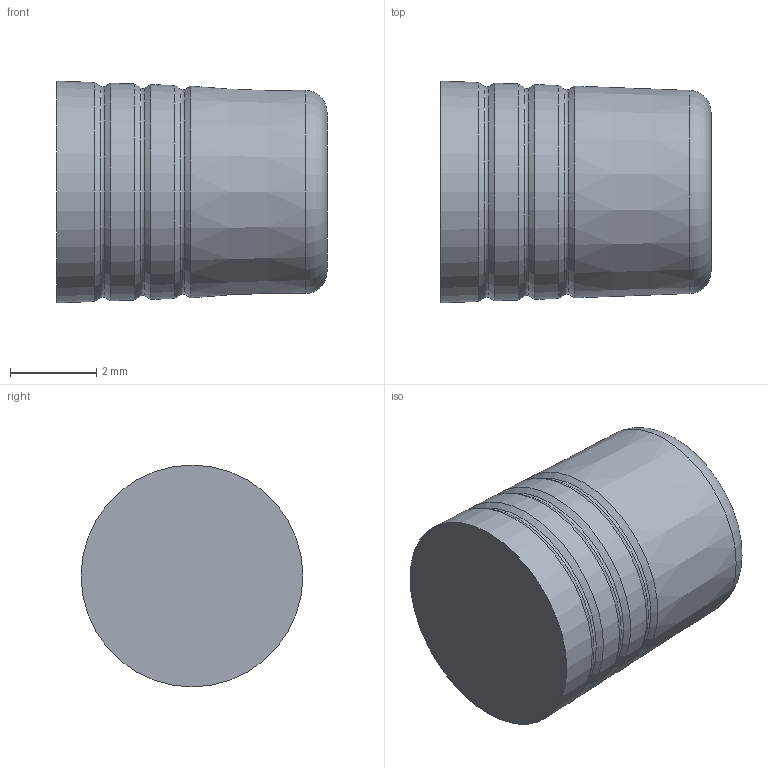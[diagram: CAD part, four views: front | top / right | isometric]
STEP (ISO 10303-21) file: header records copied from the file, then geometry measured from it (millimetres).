
FILE_DESCRIPTION(/* description */ ('LEE BETAPLUG, 5mm, SHORT, INDENT'),/* implementation_level */ '2;1');
FILE_NAME(/* name */ '\\ABSOLUTE\SmWork\Vernon\PLBA0502610S.stp',/* time_stamp */ '2021-03-23T15:09:28-04:00',/* author */ ('VernonJ'),/* organization */ (''),/* preprocessor_version */ 'ST-DEVELOPER v18',/* originating_system */ 'Autodesk Inventor 2020',/* authorisation */ '');
FILE_SCHEMA (('AUTOMOTIVE_DESIGN { 1 0 10303 214 3 1 1 }'));
Length unit declared in the file: millimetre
Products named in the file (1): PLBA0502610S
Bounding box: 6.27 x 5.15 x 5.15 mm (x, y, z)
Volume: 117.3 mm3; surface area: 133.9 mm2
Topology: 1 solids, 1 shells, 16 faces, 51 edges, 37 vertices
Faces by surface type: cone 10, torus 4, plane 2
Entity records: 649 total; most frequent: DIRECTION 126, CARTESIAN_POINT 105, ORIENTED_EDGE 102, AXIS2_PLACEMENT_3D 58, EDGE_CURVE 51, CIRCLE 41, VERTEX_POINT 37, FACE_OUTER_BOUND 16
